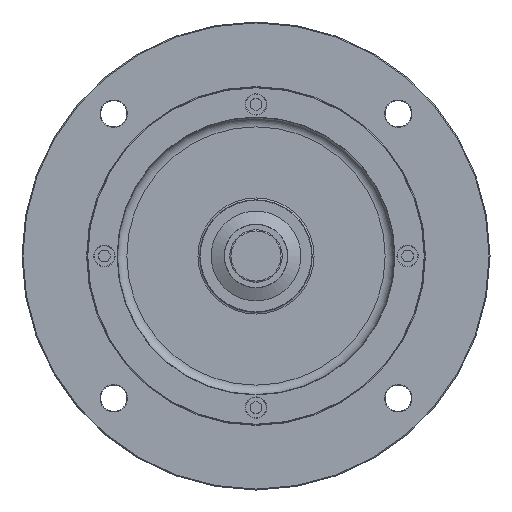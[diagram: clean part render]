
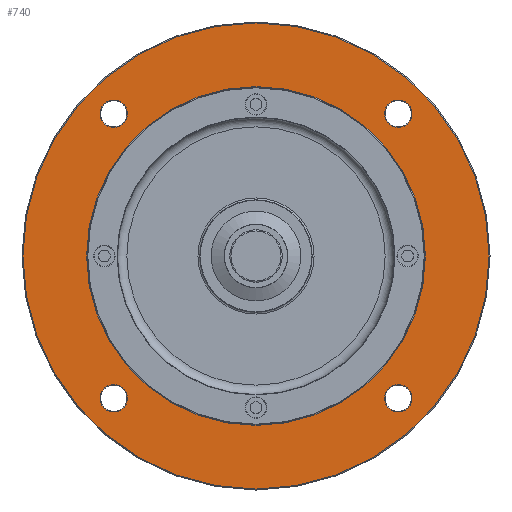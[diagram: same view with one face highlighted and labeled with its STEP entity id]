
A CAD part, front view. The second image highlights one B-rep face of the part: STEP entity #740.
In plain terms, the highlighted planar face has unit normal (0, -1, 0).
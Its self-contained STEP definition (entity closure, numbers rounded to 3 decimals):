
#740=ADVANCED_FACE('',(#1304,#1305,#1306,#1307,#1308,#1108),#1031,.T.);
#1031=PLANE('',#4293);
#1108=FACE_OUTER_BOUND('',#1640,.T.);
#1304=FACE_BOUND('',#1635,.T.);
#1305=FACE_BOUND('',#1636,.T.);
#1306=FACE_BOUND('',#1637,.T.);
#1307=FACE_BOUND('',#1638,.T.);
#1308=FACE_BOUND('',#1639,.T.);
#1635=EDGE_LOOP('',(#2157));
#1636=EDGE_LOOP('',(#2158));
#1637=EDGE_LOOP('',(#2159));
#1638=EDGE_LOOP('',(#2160));
#1639=EDGE_LOOP('',(#2161));
#1640=EDGE_LOOP('',(#2162));
#2157=ORIENTED_EDGE('',*,*,#3469,.T.);
#2158=ORIENTED_EDGE('',*,*,#3470,.T.);
#2159=ORIENTED_EDGE('',*,*,#3471,.T.);
#2160=ORIENTED_EDGE('',*,*,#3472,.T.);
#2161=ORIENTED_EDGE('',*,*,#3473,.T.);
#2162=ORIENTED_EDGE('',*,*,#3474,.T.);
#3089=VERTEX_POINT('',#6364);
#3090=VERTEX_POINT('',#6366);
#3091=VERTEX_POINT('',#6368);
#3092=VERTEX_POINT('',#6370);
#3093=VERTEX_POINT('',#6372);
#3094=VERTEX_POINT('',#6374);
#3469=EDGE_CURVE('',#3089,#3089,#3935,.T.);
#3470=EDGE_CURVE('',#3090,#3090,#3936,.T.);
#3471=EDGE_CURVE('',#3091,#3091,#3937,.T.);
#3472=EDGE_CURVE('',#3092,#3092,#3938,.T.);
#3473=EDGE_CURVE('',#3093,#3093,#3939,.T.);
#3474=EDGE_CURVE('',#3094,#3094,#3940,.T.);
#3935=CIRCLE('',#4287,90.5);
#3936=CIRCLE('',#4288,7.3);
#3937=CIRCLE('',#4289,7.3);
#3938=CIRCLE('',#4290,7.3);
#3939=CIRCLE('',#4291,7.3);
#3940=CIRCLE('',#4292,124.5);
#4287=AXIS2_PLACEMENT_3D('',#6363,#4947,#4948);
#4288=AXIS2_PLACEMENT_3D('',#6365,#4949,#4950);
#4289=AXIS2_PLACEMENT_3D('',#6367,#4951,#4952);
#4290=AXIS2_PLACEMENT_3D('',#6369,#4953,#4954);
#4291=AXIS2_PLACEMENT_3D('',#6371,#4955,#4956);
#4292=AXIS2_PLACEMENT_3D('',#6373,#4957,#4958);
#4293=AXIS2_PLACEMENT_3D('',#6375,#4959,#4960);
#4947=DIRECTION('',(0.,1.,0.));
#4948=DIRECTION('',(0.,0.,-1.));
#4949=DIRECTION('',(0.,1.,0.));
#4950=DIRECTION('',(0.,0.,-1.));
#4951=DIRECTION('',(0.,1.,0.));
#4952=DIRECTION('',(0.,0.,-1.));
#4953=DIRECTION('',(0.,1.,0.));
#4954=DIRECTION('',(0.,0.,-1.));
#4955=DIRECTION('',(0.,1.,0.));
#4956=DIRECTION('',(0.,0.,-1.));
#4957=DIRECTION('',(0.,-1.,0.));
#4958=DIRECTION('',(0.,0.,-1.));
#4959=DIRECTION('',(0.,-1.,0.));
#4960=DIRECTION('',(0.,0.,-1.));
#6363=CARTESIAN_POINT('',(0.,0.,0.));
#6364=CARTESIAN_POINT('',(0.,0.,-90.5));
#6365=CARTESIAN_POINT('',(76.014,0.,76.014));
#6366=CARTESIAN_POINT('',(76.014,0.,68.714));
#6367=CARTESIAN_POINT('',(76.014,0.,-76.014));
#6368=CARTESIAN_POINT('',(76.014,0.,-83.314));
#6369=CARTESIAN_POINT('',(-76.014,0.,-76.014));
#6370=CARTESIAN_POINT('',(-76.014,0.,-83.314));
#6371=CARTESIAN_POINT('',(-76.014,0.,76.014));
#6372=CARTESIAN_POINT('',(-76.014,0.,68.714));
#6373=CARTESIAN_POINT('',(0.,0.,0.));
#6374=CARTESIAN_POINT('',(0.,0.,-124.5));
#6375=CARTESIAN_POINT('',(0.,0.,0.));
